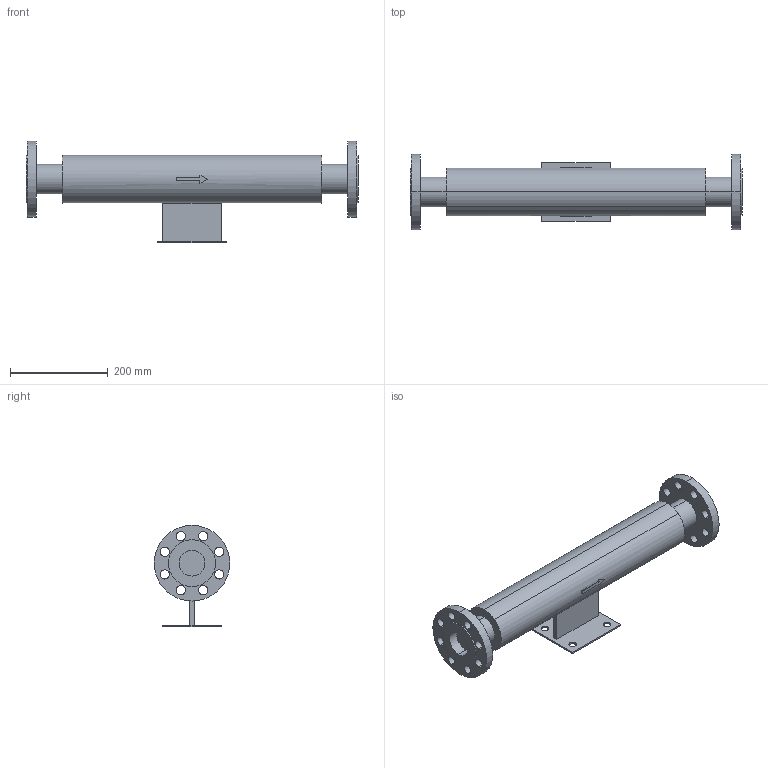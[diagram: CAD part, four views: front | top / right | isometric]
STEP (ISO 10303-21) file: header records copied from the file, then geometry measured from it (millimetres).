
FILE_DESCRIPTION( (''), '2;1');
FILE_NAME ('PC1027.9516.EB-12 50A_27207.stp','2025-07-30T09:06:06',(''),(''),'spGate 20.6.3 (****-****-****-****)','','');
FILE_SCHEMA (('AUTOMOTIVE_DESIGN'));
Length unit declared in the file: millimetre
Bounding box: 680 x 155 x 207.5 mm (x, y, z)
Volume: 5019617.5 mm3; surface area: 350717.4 mm2
Topology: 1 solids, 1 shells, 94 faces, 242 edges, 162 vertices
Faces by surface type: cylinder 58, plane 36
Entity records: 4867 total; most frequent: CARTESIAN_POINT 564, DIRECTION 494, ORIENTED_EDGE 484, COLOUR_RGB 337, PRESENTATION_STYLE_ASSIGNMENT 337, STYLED_ITEM 337, EDGE_CURVE 242, DRAUGHTING_PRE_DEFINED_CURVE_FONT 242
